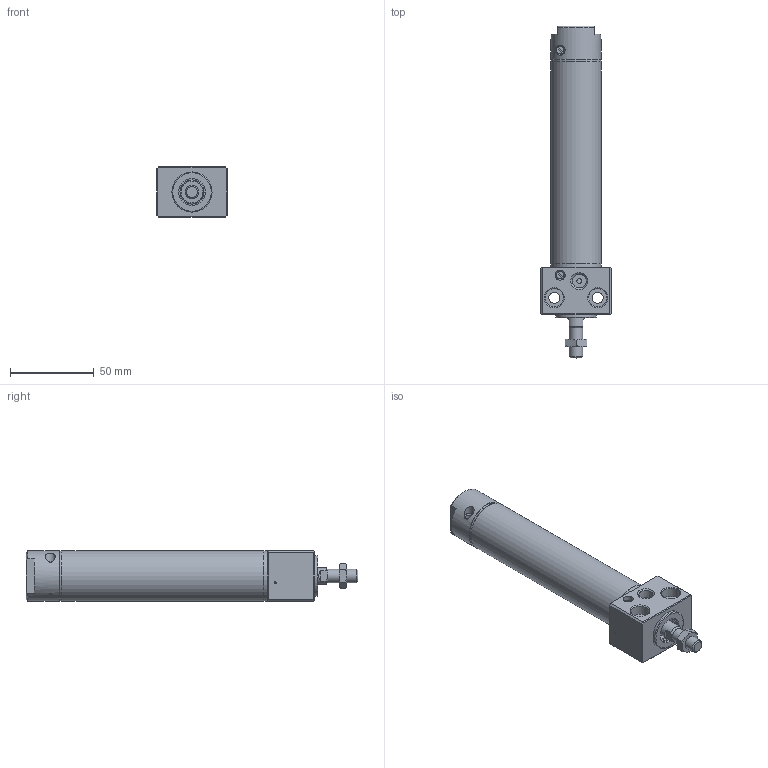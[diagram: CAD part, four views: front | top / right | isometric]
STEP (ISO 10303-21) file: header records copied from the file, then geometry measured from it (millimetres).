
FILE_DESCRIPTION((''),'2;1');
FILE_NAME('I:\3D電子目錄\氣缸\DBS\DBS\DBS25x75-C.stp','2007-10-08T08:34:19',('Administrator'),(''),'Autodesk Inventor 2008','Autodesk Inventor 2008','');
FILE_SCHEMA(('AUTOMOTIVE_DESIGN { 1 0 10303 214 1 1 1 1 }'));
Length unit declared in the file: millimetre
Products named in the file (1): DBS25x75-C
Bounding box: 42 x 198.6 x 30 mm (x, y, z)
Volume: 80132.5 mm3; surface area: 41241.2 mm2
Topology: 8 solids, 8 shells, 204 faces, 409 edges, 251 vertices
Faces by surface type: plane 90, cone 50, cylinder 48, bspline 13, torus 3
Full cylindrical faces by diameter (mm): 1.2 x1, 1.9 x2, 3 x3, 3.3 x2, 4.6 x2, 5 x3, 6 x3, 7 x1, 8 x2, 10 x1, 10.5 x1, 12 x1, 13 x2, 14 x1, 15.5 x2, 16 x2, 17 x1, 18 x2, 23 x2, 24 x1, 25 x1, 25.5 x2, 27.2 x6, 30 x4
Entity records: 5257 total; most frequent: CARTESIAN_POINT 1377, DIRECTION 812, ORIENTED_EDGE 622, AXIS2_PLACEMENT_3D 359, EDGE_LOOP 349, EDGE_CURVE 311, VERTEX_POINT 242, FACE_OUTER_BOUND 204
